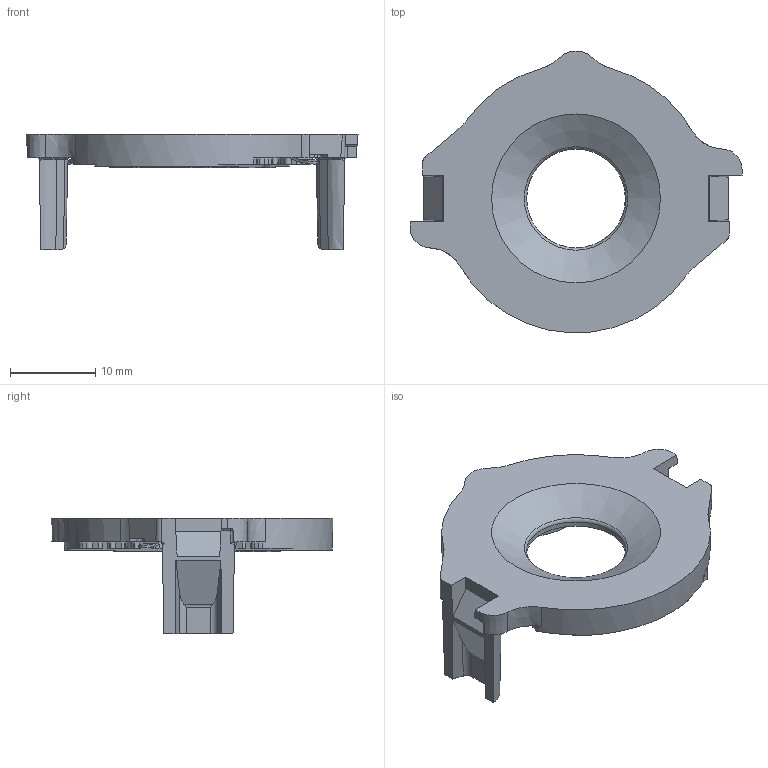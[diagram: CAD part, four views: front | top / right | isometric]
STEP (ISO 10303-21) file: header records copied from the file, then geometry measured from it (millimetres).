
FILE_DESCRIPTION(/* description */ ('Unknown'),/* implementation_level */ '2;1');
FILE_NAME(/* name */ '025-70B-02',/* time_stamp */ '2026-02-16T13:05:47+01:00',/* author */ ('Unknown'),/* organization */ ('Unknown'),/* preprocessor_version */ 'ST-DEVELOPER v16.7',/* originating_system */ 'Solid Edge',/* authorisation */ 'Unknown');
FILE_SCHEMA (('AUTOMOTIVE_DESIGN {1 0 10303 214 3 1 1}'));
Length unit declared in the file: millimetre
Products named in the file (1): 025-70B-02
Bounding box: 39 x 33.07 x 13.6 mm (x, y, z)
Volume: 2201.1 mm3; surface area: 2994.3 mm2
Topology: 1 solids, 1 shells, 669 faces, 1906 edges, 1247 vertices
Faces by surface type: plane 302, cone 198, cylinder 82, bspline 60, torus 23, sphere 4
Full cylindrical faces by diameter (mm): 0.04 x2
Entity records: 27765 total; most frequent: CARTESIAN_POINT 5979, ORIENTED_EDGE 3774, DIRECTION 3387, EDGE_CURVE 1887, VERTEX_POINT 1242, AXIS2_PLACEMENT_3D 1206, LINE 975, VECTOR 975
